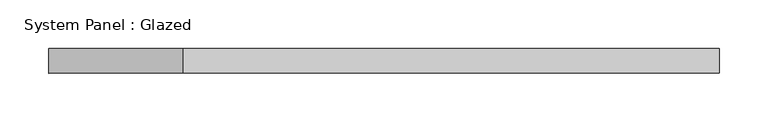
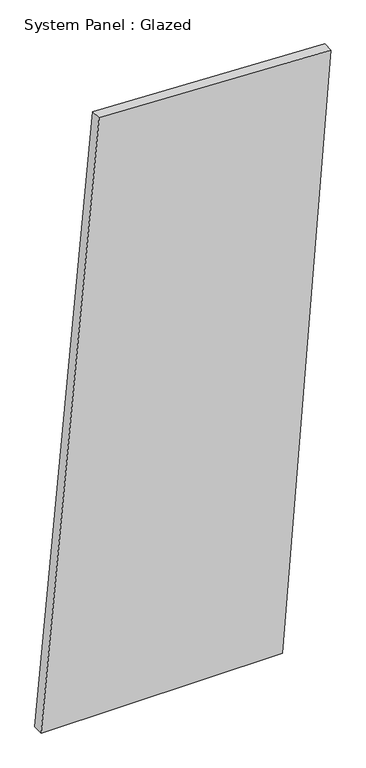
"""IFC4 building model written with IfcOpenShell, lengths in millimetres: plate geometry, System Panel : Glazed."""

from ifc_helpers import new_model, si_unit, frame, origin, place, context, project, spatial, polyline, outline, extrude, source, transform, mapped, element, save


def system_panel_glazed_23b24e75(model_context):
    return source(origin(), model_context, "Body", "SweptSolid", [
        extrude(outline(polyline([(0.0, -345.0046899), (0.0, 228.9387486), (1474.383854, 345.0046899), (1497.0838132, -207.0759482), (0.0, -345.0046899)])), frame((0.0, -44.45, 0.0), z_axis=(0.0, 1.0, 0.0), x_axis=(0.0, 0.0, 1.0)), (0.0, 0.0, 1.0), 25.4),
    ])


if __name__ == "__main__":
    model = new_model("IFC4")
    model_context = context("Model", 3, world=origin())
    ifc_project = project(units=[si_unit("LENGTHUNIT", "METRE", prefix="MILLI")], contexts=[model_context])
    site = spatial("IfcSite", under=ifc_project)
    building = spatial("IfcBuilding", under=site)
    placement = place(None, origin())
    system_panel_glazed_shape = system_panel_glazed_23b24e75(model_context)
    element("IfcPlate", 1, ObjectType="System Panel : Glazed", at=placement, inside=building, context=model_context, shape_type="MappedRepresentation", body=[
        mapped(system_panel_glazed_shape, transform((0.0, 0.0, 0.0), x_axis=(1.0, 0.0, 0.0), y_axis=(0.0, 1.0, 0.0), z_axis=(0.0, 0.0, 1.0))),
    ])
    save(model, "model.ifc")
